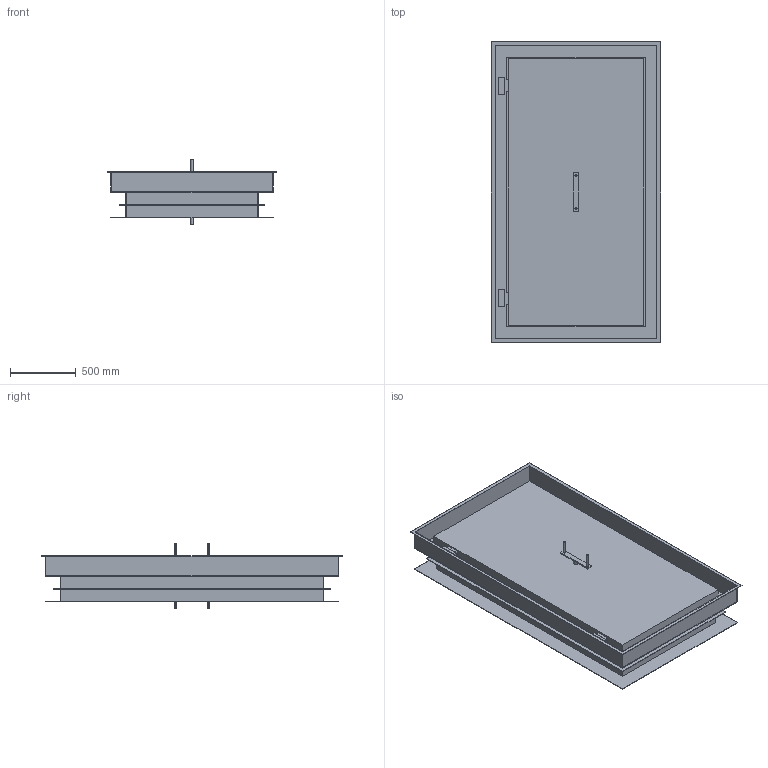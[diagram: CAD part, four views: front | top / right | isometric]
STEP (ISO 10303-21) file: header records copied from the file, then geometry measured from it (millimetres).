
FILE_DESCRIPTION((''),'2;1');
FILE_NAME('51300101','2019-01-22T',('ka'),('HUBER SE'),'PRO/ENGINEER BY PARAMETRIC TECHNOLOGY CORPORATION, 2017170','PRO/ENGINEER BY PARAMETRIC TECHNOLOGY CORPORATION, 2017170','');
FILE_SCHEMA(('AUTOMOTIVE_DESIGN { 1 0 10303 214 1 1 1 1 }'));
Length unit declared in the file: millimetre
Products named in the file (1): 51300101
Bounding box: 1290 x 2290 x 495 mm (x, y, z)
Volume: 208926703.3 mm3; surface area: 13496781.1 mm2
Topology: 1 solids, 1 shells, 99 faces, 232 edges, 152 vertices
Faces by surface type: plane 87, cylinder 12
Entity records: 3659 total; most frequent: CARTESIAN_POINT 485, ORIENTED_EDGE 464, DIRECTION 454, EDGE_CURVE 232, VECTOR 208, LINE 208, VERTEX_POINT 152, AXIS2_PLACEMENT_3D 123
